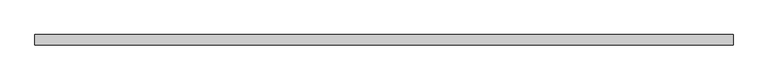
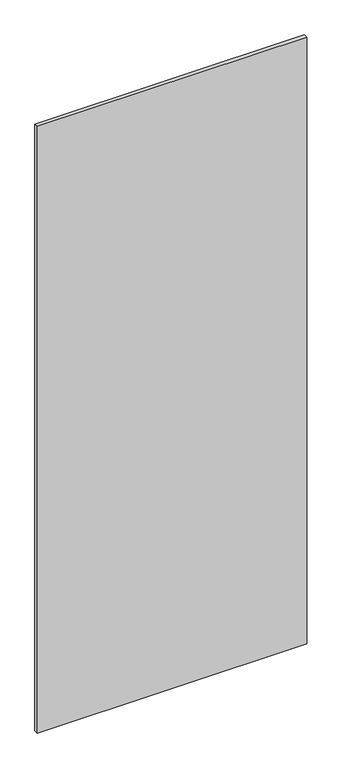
"""IFC4 building model written with IfcOpenShell, lengths in millimetres: plate geometry, 系统嵌板 : 玻璃."""

from ifc_helpers import new_model, si_unit, origin, origin_with_axes, place, context, project, spatial, polyline, outline, extrude, source, transform, mapped, element, save


def plate_2c2a9886(model_context):
    return source(origin(), model_context, "Body", "SweptSolid", [
        extrude(outline(polyline([(840.0, -12.5), (-840.0, -12.5), (-840.0, 12.5), (840.0, 12.5), (840.0, -12.5)])), origin_with_axes(), (0.0, 0.0, 1.0), 4000.0),
    ])


if __name__ == "__main__":
    model = new_model("IFC4")
    model_context = context("Model", 3, world=origin())
    ifc_project = project(units=[si_unit("LENGTHUNIT", "METRE", prefix="MILLI")], contexts=[model_context])
    site = spatial("IfcSite", under=ifc_project)
    building = spatial("IfcBuilding", under=site)
    placement = place(None, origin())
    plate_shape = plate_2c2a9886(model_context)
    element("IfcPlate", 1, ObjectType="系统嵌板 : 玻璃", at=placement, inside=building, context=model_context, shape_type="MappedRepresentation", body=[
        mapped(plate_shape, transform((0.0, 0.0, 0.0), x_axis=(1.0, 0.0, 0.0), y_axis=(0.0, 1.0, 0.0), z_axis=(0.0, 0.0, 1.0))),
    ])
    save(model, "model.ifc")
